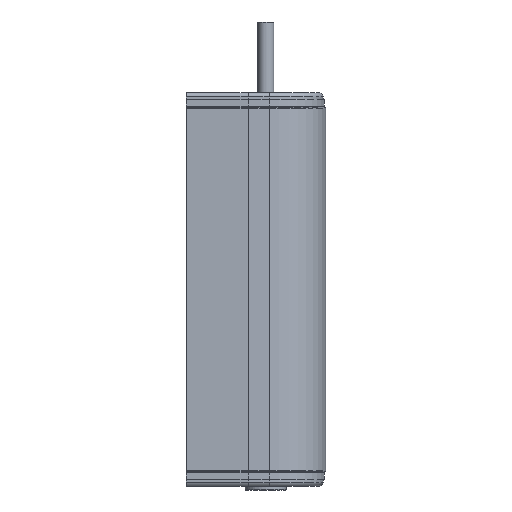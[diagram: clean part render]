
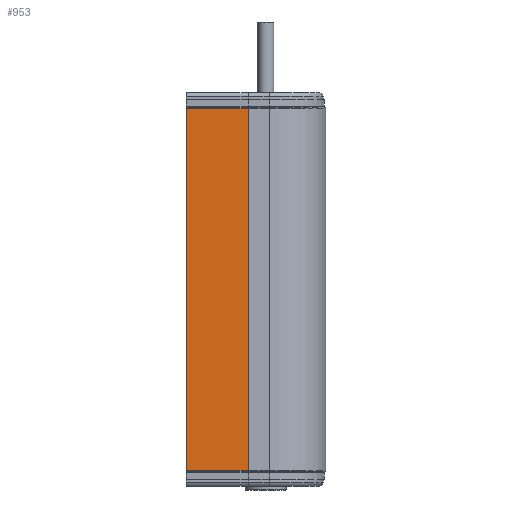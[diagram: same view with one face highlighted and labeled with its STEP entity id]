
A CAD part, front view. The second image highlights one B-rep face of the part: STEP entity #953.
In plain terms, the highlighted planar face has unit normal (0, -1, 0).
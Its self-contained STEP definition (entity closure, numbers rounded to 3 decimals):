
#465 = VERTEX_POINT ( 'NONE', #4009 ) ;
#498 = LINE ( 'NONE', #9212, #6887 ) ;
#648 = AXIS2_PLACEMENT_3D ( 'NONE', #8098, #3952, #10600 ) ;
#801 = DIRECTION ( 'NONE',  ( 0., 0., -1. ) ) ;
#882 = DIRECTION ( 'NONE',  ( -1., 0., 0. ) ) ;
#939 = DIRECTION ( 'NONE',  ( -1., 0., 0. ) ) ;
#953 = ADVANCED_FACE ( 'NONE', ( #10566 ), #8949, .F. ) ;
#1747 = CARTESIAN_POINT ( 'NONE',  ( -22.259, -76.7, -227.6 ) ) ;
#1914 = ORIENTED_EDGE ( 'NONE', *, *, #6399, .F. ) ;
#1964 = LINE ( 'NONE', #3622, #9505 ) ;
#2212 = CARTESIAN_POINT ( 'NONE',  ( -22.259, -76.7, -227.6 ) ) ;
#3233 = ORIENTED_EDGE ( 'NONE', *, *, #7788, .T. ) ;
#3622 = CARTESIAN_POINT ( 'NONE',  ( -22.259, -76.7, 227.6 ) ) ;
#3723 = LINE ( 'NONE', #1747, #7776 ) ;
#3952 = DIRECTION ( 'NONE',  ( 0., 1., 0. ) ) ;
#4009 = CARTESIAN_POINT ( 'NONE',  ( -100., -76.7, 227.6 ) ) ;
#4884 = CARTESIAN_POINT ( 'NONE',  ( -100., -76.7, -227.6 ) ) ;
#5354 = EDGE_LOOP ( 'NONE', ( #1914, #5962, #3233, #5864 ) ) ;
#5740 = EDGE_CURVE ( 'NONE', #465, #8356, #498, .T. ) ;
#5864 = ORIENTED_EDGE ( 'NONE', *, *, #5740, .T. ) ;
#5962 = ORIENTED_EDGE ( 'NONE', *, *, #10463, .F. ) ;
#6399 = EDGE_CURVE ( 'NONE', #7629, #8356, #3723, .T. ) ;
#6689 = VERTEX_POINT ( 'NONE', #7883 ) ;
#6887 = VECTOR ( 'NONE', #801, 1000. ) ;
#7629 = VERTEX_POINT ( 'NONE', #2212 ) ;
#7776 = VECTOR ( 'NONE', #882, 1000. ) ;
#7788 = EDGE_CURVE ( 'NONE', #6689, #465, #8587, .T. ) ;
#7883 = CARTESIAN_POINT ( 'NONE',  ( -22.259, -76.7, 227.6 ) ) ;
#8098 = CARTESIAN_POINT ( 'NONE',  ( -22.259, -76.7, 227.6 ) ) ;
#8356 = VERTEX_POINT ( 'NONE', #4884 ) ;
#8587 = LINE ( 'NONE', #9758, #9999 ) ;
#8949 = PLANE ( 'NONE',  #648 ) ;
#9212 = CARTESIAN_POINT ( 'NONE',  ( -100., -76.7, 227.6 ) ) ;
#9505 = VECTOR ( 'NONE', #10204, 1000. ) ;
#9758 = CARTESIAN_POINT ( 'NONE',  ( -22.259, -76.7, 227.6 ) ) ;
#9999 = VECTOR ( 'NONE', #939, 1000. ) ;
#10204 = DIRECTION ( 'NONE',  ( 0., 0., -1. ) ) ;
#10463 = EDGE_CURVE ( 'NONE', #6689, #7629, #1964, .T. ) ;
#10566 = FACE_OUTER_BOUND ( 'NONE', #5354, .T. ) ;
#10600 = DIRECTION ( 'NONE',  ( -1., 0., 0. ) ) ;
